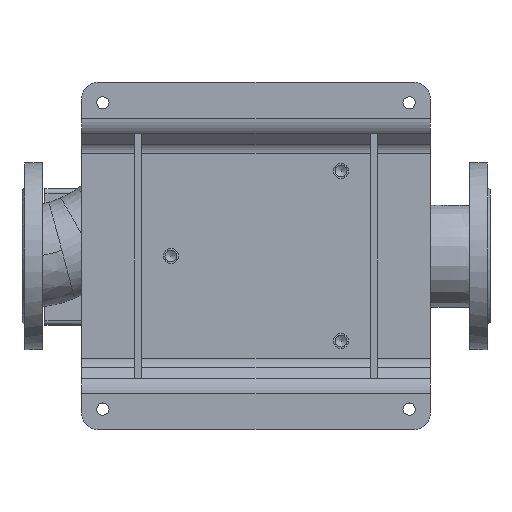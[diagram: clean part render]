
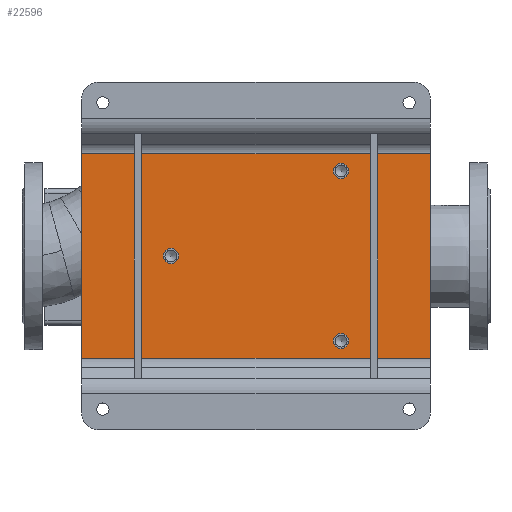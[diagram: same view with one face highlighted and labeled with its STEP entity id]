
A CAD part, top view. The second image highlights one B-rep face of the part: STEP entity #22596.
In plain terms, the highlighted planar face has unit normal (0, 0, 1) as drawn and (0, -1, 0) by its records, which use the part's own axes.
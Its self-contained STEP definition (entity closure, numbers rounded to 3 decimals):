
#3575 = EDGE_LOOP ( 'NONE', ( #75220 ) ) ;
#4328 = VERTEX_POINT ( 'NONE', #17299 ) ;
#5402 = ORIENTED_EDGE ( 'NONE', *, *, #77596, .F. ) ;
#6376 = LINE ( 'NONE', #19684, #59124 ) ;
#7159 = FACE_BOUND ( 'NONE', #24966, .T. ) ;
#7287 = ORIENTED_EDGE ( 'NONE', *, *, #18699, .F. ) ;
#7914 = VERTEX_POINT ( 'NONE', #76285 ) ;
#8910 = EDGE_CURVE ( 'NONE', #73307, #38620, #10058, .T. ) ;
#9674 = DIRECTION ( 'NONE',  ( 0., 0., -1. ) ) ;
#9957 = CIRCLE ( 'NONE', #57782, 9. ) ;
#10058 = LINE ( 'NONE', #23356, #62604 ) ;
#10624 = CARTESIAN_POINT ( 'NONE',  ( 0., -8., 0. ) ) ;
#14464 = CARTESIAN_POINT ( 'NONE',  ( 0., -8., -100. ) ) ;
#15143 = VERTEX_POINT ( 'NONE', #26519 ) ;
#15781 = ORIENTED_EDGE ( 'NONE', *, *, #62465, .F. ) ;
#15882 = AXIS2_PLACEMENT_3D ( 'NONE', #14464, #62238, #51690 ) ;
#17160 = EDGE_LOOP ( 'NONE', ( #15781, #5402, #74697, #27027 ) ) ;
#17299 = CARTESIAN_POINT ( 'NONE',  ( 120., -8., 205. ) ) ;
#17703 = ORIENTED_EDGE ( 'NONE', *, *, #60621, .F. ) ;
#17864 = PLANE ( 'NONE',  #33394 ) ;
#18699 = EDGE_CURVE ( 'NONE', #68442, #68442, #9957, .T. ) ;
#19684 = CARTESIAN_POINT ( 'NONE',  ( -120., -8., -205. ) ) ;
#20433 = VERTEX_POINT ( 'NONE', #38654 ) ;
#21229 = DIRECTION ( 'NONE',  ( 0., -1., 0. ) ) ;
#22596 = ADVANCED_FACE ( 'NONE', ( #70595, #26545, #7159, #47855 ), #17864, .T. ) ;
#23356 = CARTESIAN_POINT ( 'NONE',  ( -120., -8., 205. ) ) ;
#24913 = CIRCLE ( 'NONE', #15882, 9. ) ;
#24966 = EDGE_LOOP ( 'NONE', ( #17703 ) ) ;
#26519 = CARTESIAN_POINT ( 'NONE',  ( -100., -8., 91. ) ) ;
#26545 = FACE_BOUND ( 'NONE', #3575, .T. ) ;
#26779 = AXIS2_PLACEMENT_3D ( 'NONE', #66040, #48684, #35322 ) ;
#27027 = ORIENTED_EDGE ( 'NONE', *, *, #58356, .F. ) ;
#33018 = DIRECTION ( 'NONE',  ( 0., 0., -1. ) ) ;
#33394 = AXIS2_PLACEMENT_3D ( 'NONE', #10624, #58483, #72095 ) ;
#35322 = DIRECTION ( 'NONE',  ( 0., 0., -1. ) ) ;
#38620 = VERTEX_POINT ( 'NONE', #66094 ) ;
#38654 = CARTESIAN_POINT ( 'NONE',  ( 0., -8., -109. ) ) ;
#40409 = CARTESIAN_POINT ( 'NONE',  ( 120., -8., 205. ) ) ;
#44468 = DIRECTION ( 'NONE',  ( 1., 0., 0. ) ) ;
#46290 = EDGE_CURVE ( 'NONE', #20433, #20433, #24913, .T. ) ;
#47855 = FACE_OUTER_BOUND ( 'NONE', #17160, .T. ) ;
#48635 = CARTESIAN_POINT ( 'NONE',  ( -120., -8., -205. ) ) ;
#48684 = DIRECTION ( 'NONE',  ( 0., -1., 0. ) ) ;
#48755 = CIRCLE ( 'NONE', #26779, 9. ) ;
#51298 = LINE ( 'NONE', #57768, #59594 ) ;
#51690 = DIRECTION ( 'NONE',  ( 0., 0., -1. ) ) ;
#52553 = LINE ( 'NONE', #40409, #53991 ) ;
#53991 = VECTOR ( 'NONE', #9674, 1000. ) ;
#57631 = EDGE_LOOP ( 'NONE', ( #7287 ) ) ;
#57768 = CARTESIAN_POINT ( 'NONE',  ( -120., -8., 205. ) ) ;
#57782 = AXIS2_PLACEMENT_3D ( 'NONE', #70999, #21229, #33018 ) ;
#58356 = EDGE_CURVE ( 'NONE', #7914, #73307, #6376, .T. ) ;
#58483 = DIRECTION ( 'NONE',  ( 0., -1., 0. ) ) ;
#59124 = VECTOR ( 'NONE', #79959, 1000. ) ;
#59594 = VECTOR ( 'NONE', #44468, 1000. ) ;
#60203 = DIRECTION ( 'NONE',  ( 0., 0., 1. ) ) ;
#60621 = EDGE_CURVE ( 'NONE', #15143, #15143, #48755, .T. ) ;
#62238 = DIRECTION ( 'NONE',  ( 0., -1., 0. ) ) ;
#62465 = EDGE_CURVE ( 'NONE', #4328, #7914, #52553, .T. ) ;
#62604 = VECTOR ( 'NONE', #60203, 1000. ) ;
#63185 = CARTESIAN_POINT ( 'NONE',  ( 100., -8., 91. ) ) ;
#66040 = CARTESIAN_POINT ( 'NONE',  ( -100., -8., 100. ) ) ;
#66094 = CARTESIAN_POINT ( 'NONE',  ( -120., -8., 205. ) ) ;
#68442 = VERTEX_POINT ( 'NONE', #63185 ) ;
#70595 = FACE_BOUND ( 'NONE', #57631, .T. ) ;
#70999 = CARTESIAN_POINT ( 'NONE',  ( 100., -8., 100. ) ) ;
#72095 = DIRECTION ( 'NONE',  ( 0., 0., -1. ) ) ;
#73307 = VERTEX_POINT ( 'NONE', #48635 ) ;
#74697 = ORIENTED_EDGE ( 'NONE', *, *, #8910, .F. ) ;
#75220 = ORIENTED_EDGE ( 'NONE', *, *, #46290, .F. ) ;
#76285 = CARTESIAN_POINT ( 'NONE',  ( 120., -8., -205. ) ) ;
#77596 = EDGE_CURVE ( 'NONE', #38620, #4328, #51298, .T. ) ;
#79959 = DIRECTION ( 'NONE',  ( -1., 0., 0. ) ) ;
